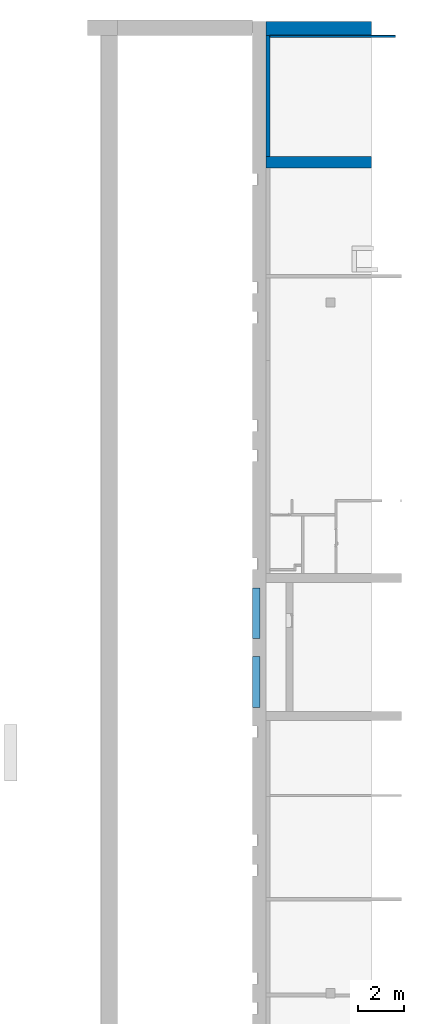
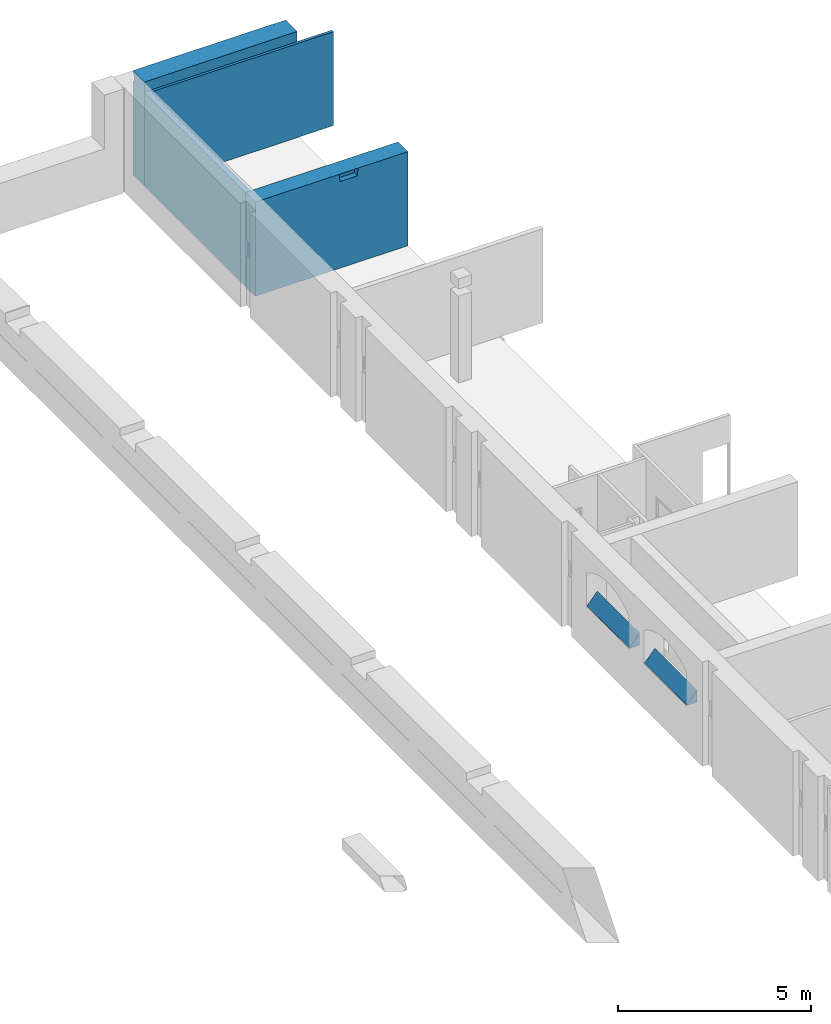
# One storey, part 9 of 11: 5 walls, 15 openings.
"""IFC2X3 building model written with IfcOpenShell, lengths in millimetres."""

from ifc_helpers import new_model, entity, si_unit, converted_unit, derived_unit, direction, frame, frame_2d, origin, origin_2d_with_axis, place, context, subcontext, project, spatial, polyline, circle_curve, parameter, trimmed, segment, composite_curve, rectangle, outline, extrude, clip, bounded_halfspace, faceted_brep, material, layer, layer_set, layer_usage, type_object, element, save


model = new_model("IFC2X3")

# Units and contexts
model_context = context("Model", 3, precision=0.01, world=origin(), true_north=direction((6.123031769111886e-17, 1.0)))
body_context = subcontext(model_context, "Body", "Model", "MODEL_VIEW")
ifc_project = project(units=[si_unit("LENGTHUNIT", "METRE", prefix="MILLI"), si_unit("AREAUNIT", "SQUARE_METRE"), si_unit("VOLUMEUNIT", "CUBIC_METRE"), converted_unit("PLANEANGLEUNIT", "DEGREE", entity("IfcPlaneAngleMeasure", 0.017453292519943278), si_unit("PLANEANGLEUNIT", "RADIAN"), dimensions=[0, 0, 0, 0, 0, 0, 0]), si_unit("MASSUNIT", "GRAM", prefix="KILO"), derived_unit("MASSDENSITYUNIT", [(si_unit("MASSUNIT", "GRAM", prefix="KILO"), 1), (si_unit("LENGTHUNIT", "METRE"), -3)]), derived_unit("IONCONCENTRATIONUNIT", [(si_unit("MASSUNIT", "GRAM", prefix="KILO"), 1), (si_unit("LENGTHUNIT", "METRE"), -3)]), derived_unit("MOMENTOFINERTIAUNIT", [(si_unit("LENGTHUNIT", "METRE"), 4)]), si_unit("TIMEUNIT", "SECOND"), si_unit("FREQUENCYUNIT", "HERTZ"), si_unit("THERMODYNAMICTEMPERATUREUNIT", "DEGREE_CELSIUS"), derived_unit("THERMALTRANSMITTANCEUNIT", [(si_unit("MASSUNIT", "GRAM", prefix="KILO"), 1), (si_unit("THERMODYNAMICTEMPERATUREUNIT", "KELVIN"), -1), (si_unit("TIMEUNIT", "SECOND"), -3)]), derived_unit("THERMALCONDUCTANCEUNIT", [(si_unit("MASSUNIT", "GRAM", prefix="KILO"), 1), (si_unit("THERMODYNAMICTEMPERATUREUNIT", "KELVIN"), -1), (si_unit("TIMEUNIT", "SECOND"), -3), (si_unit("LENGTHUNIT", "METRE"), 1)]), derived_unit("VOLUMETRICFLOWRATEUNIT", [(si_unit("LENGTHUNIT", "METRE", prefix="DECI"), 3), (si_unit("TIMEUNIT", "SECOND"), -1)]), derived_unit("MASSFLOWRATEUNIT", [(si_unit("MASSUNIT", "GRAM", prefix="KILO"), 1), (si_unit("TIMEUNIT", "SECOND"), -1)]), derived_unit("ROTATIONALFREQUENCYUNIT", [(si_unit("TIMEUNIT", "SECOND"), -1)]), si_unit("ELECTRICCURRENTUNIT", "AMPERE"), si_unit("ELECTRICVOLTAGEUNIT", "VOLT"), si_unit("POWERUNIT", "WATT"), si_unit("FORCEUNIT", "NEWTON", prefix="KILO"), si_unit("ILLUMINANCEUNIT", "LUX"), si_unit("LUMINOUSFLUXUNIT", "LUMEN"), si_unit("LUMINOUSINTENSITYUNIT", "CANDELA"), si_unit("ENERGYUNIT", "JOULE"), derived_unit("USERDEFINED", [(si_unit("MASSUNIT", "GRAM", prefix="KILO"), -1), (si_unit("LENGTHUNIT", "METRE"), -2), (si_unit("TIMEUNIT", "SECOND"), 3), (si_unit("LUMINOUSFLUXUNIT", "LUMEN"), 1)]), derived_unit("USERDEFINED", [(si_unit("MASSUNIT", "GRAM", prefix="KILO"), 1), (si_unit("TIMEUNIT", "SECOND"), -3), (si_unit("LENGTHUNIT", "METRE"), 3), (si_unit("ELECTRICCURRENTUNIT", "AMPERE"), -2)]), derived_unit("SOUNDPOWERUNIT", [(si_unit("MASSUNIT", "GRAM", prefix="KILO"), 1), (si_unit("TIMEUNIT", "SECOND"), -3), (si_unit("LENGTHUNIT", "METRE"), 2)]), derived_unit("SOUNDPRESSUREUNIT", [(si_unit("MASSUNIT", "GRAM", prefix="KILO"), 1), (si_unit("LENGTHUNIT", "METRE"), -1), (si_unit("TIMEUNIT", "SECOND"), -2)]), derived_unit("LINEARVELOCITYUNIT", [(si_unit("LENGTHUNIT", "METRE"), 1), (si_unit("TIMEUNIT", "SECOND"), -1)]), si_unit("PRESSUREUNIT", "PASCAL"), derived_unit("USERDEFINED", [(si_unit("MASSUNIT", "GRAM", prefix="KILO"), 1), (si_unit("LENGTHUNIT", "METRE"), -2), (si_unit("TIMEUNIT", "SECOND"), -2)]), derived_unit("LINEARFORCEUNIT", [(si_unit("MASSUNIT", "GRAM", prefix="KILO"), 1), (si_unit("TIMEUNIT", "SECOND"), -2)]), derived_unit("PLANARFORCEUNIT", [(si_unit("MASSUNIT", "GRAM", prefix="KILO"), 1), (si_unit("LENGTHUNIT", "METRE"), -1), (si_unit("TIMEUNIT", "SECOND"), -2)]), derived_unit("SPECIFICHEATCAPACITYUNIT", [(si_unit("THERMODYNAMICTEMPERATUREUNIT", "KELVIN"), -1), (si_unit("LENGTHUNIT", "METRE"), 2), (si_unit("TIMEUNIT", "SECOND"), -2)]), derived_unit("HEATFLUXDENSITYUNIT", [(si_unit("MASSUNIT", "GRAM", prefix="KILO"), 1), (si_unit("TIMEUNIT", "SECOND"), -3)]), derived_unit("HEATINGVALUEUNIT", [(si_unit("LENGTHUNIT", "METRE"), 2), (si_unit("TIMEUNIT", "SECOND"), -2)]), derived_unit("VAPORPERMEABILITYUNIT", [(si_unit("LENGTHUNIT", "METRE"), -1), (si_unit("TIMEUNIT", "SECOND"), 1)]), derived_unit("DYNAMICVISCOSITYUNIT", [(si_unit("MASSUNIT", "GRAM", prefix="KILO"), 1), (si_unit("TIMEUNIT", "SECOND"), -1), (si_unit("LENGTHUNIT", "METRE"), -1)]), derived_unit("THERMALEXPANSIONCOEFFICIENTUNIT", [(si_unit("THERMODYNAMICTEMPERATUREUNIT", "KELVIN"), -1)]), derived_unit("MODULUSOFELASTICITYUNIT", [(si_unit("MASSUNIT", "GRAM", prefix="KILO"), 1), (si_unit("LENGTHUNIT", "METRE"), -1), (si_unit("TIMEUNIT", "SECOND"), -2)]), derived_unit("ISOTHERMALMOISTURECAPACITYUNIT", [(si_unit("MASSUNIT", "GRAM", prefix="KILO"), -1), (si_unit("LENGTHUNIT", "METRE"), 3)]), derived_unit("MOISTUREDIFFUSIVITYUNIT", [(si_unit("TIMEUNIT", "SECOND"), -1), (si_unit("LENGTHUNIT", "METRE"), 2)]), derived_unit("MASSPERLENGTHUNIT", [(si_unit("MASSUNIT", "GRAM", prefix="KILO"), 1), (si_unit("LENGTHUNIT", "METRE"), -1)]), derived_unit("THERMALRESISTANCEUNIT", [(si_unit("MASSUNIT", "GRAM", prefix="KILO"), -1), (si_unit("TIMEUNIT", "SECOND"), 3), (si_unit("THERMODYNAMICTEMPERATUREUNIT", "KELVIN"), 1)]), derived_unit("ACCELERATIONUNIT", [(si_unit("LENGTHUNIT", "METRE"), 1), (si_unit("TIMEUNIT", "SECOND"), -2)]), derived_unit("ANGULARVELOCITYUNIT", [(si_unit("TIMEUNIT", "SECOND"), -1), (si_unit("PLANEANGLEUNIT", "RADIAN"), 1)]), derived_unit("LINEARSTIFFNESSUNIT", [(si_unit("MASSUNIT", "GRAM", prefix="KILO"), 1), (si_unit("TIMEUNIT", "SECOND"), -2)]), derived_unit("WARPINGCONSTANTUNIT", [(si_unit("LENGTHUNIT", "METRE"), 6)]), derived_unit("LINEARMOMENTUNIT", [(si_unit("MASSUNIT", "GRAM", prefix="KILO"), 1), (si_unit("LENGTHUNIT", "METRE"), 1), (si_unit("TIMEUNIT", "SECOND"), -2)]), derived_unit("TORQUEUNIT", [(si_unit("MASSUNIT", "GRAM", prefix="KILO"), 1), (si_unit("LENGTHUNIT", "METRE"), 2), (si_unit("TIMEUNIT", "SECOND"), -2)])], contexts=[model_context])

# Site, building, storey
site_placement = place(None, origin())
site = spatial("IfcSite", under=ifc_project, at=site_placement, Name="Default", CompositionType="ELEMENT")
building_placement = place(site_placement, origin())
building = spatial("IfcBuilding", under=site, at=building_placement, Name="Eesti Rahvusraamatukogu hoone renoveerimise projekteerimistööd", CompositionType="ELEMENT")
storey_placement = place(building_placement, frame((0.0, 0.0, -1650.0)))
storey = spatial("IfcBuildingStorey", under=building, at=storey_placement, Name="-1. korrus", CompositionType="ELEMENT", Elevation=-1650.0000000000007)

# Walls
ifc_material_1 = material(Name="ol. olev materjal")
ifc_layer_1 = layer(ifc_material_1, 600.0)
ifc_layer_set_1 = layer_set([ifc_layer_1], Name="Basic Wall:ol. olev - 600mm")
wall_type_1 = type_object("IfcWallType", Name="Basic Wall:ol. olev - 600mm", PredefinedType="STANDARD", material=ifc_layer_set_1)
wall_1_placement = place(storey_placement, frame((-36190.17342295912, 54290.37627987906, 0.0)))
element("IfcWall", 1, at=wall_1_placement, inside=storey, type_object=wall_type_1, Name="Basic Wall:ol. olev - 600mm", ObjectType="Basic Wall:ol. olev - 600mm", context=body_context, shape_type="Brep", body=[
    faceted_brep([(4580.3549917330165, -300.0, 3300.0), (0.0, -300.0, 3300.0), (0.0, -300.0, 0.0), (4580.3549917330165, -300.0, 0.0), (4580.354991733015, 300.0, 0.0), (3570.173422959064, 300.0, 0.0), (3290.17342295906, 300.0, 0.0), (2400.1734229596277, 300.0, 0.0), (1760.1734229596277, 300.0, 0.0), (0.0, 300.0, 0.0), (0.0, 300.0, 2966.7097966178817), (3290.1734229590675, 300.0, 2966.7097966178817), (3290.1734229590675, 300.0, 2980.0), (3290.1734229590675, 300.0, 3202.9859096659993), (0.0, 300.0, 3202.9859096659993), (0.0, 300.0, 3300.0), (4580.354991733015, 300.0, 3300.0), (0.0, 299.6237201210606, 0.0), (0.0, 299.6237201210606, 3300.0), (3290.173422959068, 250.0, 2966.7097966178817), (3290.173422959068, 250.0, 3202.9859096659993), (0.0, 250.0, 2966.7097966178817), (0.0, 250.0, 3202.9859096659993)], [[[0, 1, 2, 3]], [[4, 5, 6, 7, 8, 9, 10, 11, 12, 13, 14, 15, 16]], [[9, 8, 7, 6, 5, 4, 3, 2, 17]], [[1, 0, 16, 15, 18]], [[19, 20, 13, 12, 11]], [[20, 19, 21, 22]], [[19, 11, 10, 21]], [[13, 20, 22, 14]], [[2, 1, 18, 15, 14, 22, 21, 10, 9, 17]], [[0, 3, 4, 16]]]),
])
ifc_layer_2 = layer(ifc_material_1, 510.0)
ifc_layer_set_2 = layer_set([ifc_layer_2], Name="Basic Wall:ol. olev - 510mm")
wall_type_2 = type_object("IfcWallType", Name="Basic Wall:ol. olev - 510mm", PredefinedType="STANDARD", material=ifc_layer_set_2)
wall_2_placement = place(storey_placement, frame((-30570.0, 48485.0, 0.0), z_axis=(0.0, 0.0, 1.0), x_axis=(-1.0, 0.0, 0.0)))
element("IfcWall", 2, at=wall_2_placement, inside=storey, type_object=wall_type_2, Name="Basic Wall:ol. olev - 510mm", ObjectType="Basic Wall:ol. olev - 510mm", context=body_context, shape_type="Brep", body=[
    faceted_brep([(1039.8184312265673, -255.0, 0.0), (5620.17342295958, -255.0, 0.0), (5620.17342295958, -255.0, 2985.0), (1039.8184312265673, -255.0, 2985.0), (5620.173422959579, 255.0, 0.0), (1039.8184312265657, 255.0, 0.0), (1039.8184312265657, 255.0, 2985.0), (5620.173422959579, 255.0, 2985.0), (2560.0, 255.0, 2750.0), (3080.0, 255.0, 2750.0), (3100.0, 255.0, 2980.0), (2540.0, 255.0, 2980.0), (2540.0, 95.0, 2980.0), (3100.0, 95.0, 2980.0), (3080.0, 95.0, 2750.0), (2560.0, 95.0, 2750.0)], [[[0, 1, 2, 3]], [[4, 5, 6, 7], [8, 9, 10, 11]], [[1, 0, 5, 4]], [[3, 2, 7, 6]], [[12, 13, 14, 15]], [[15, 14, 9, 8]], [[14, 13, 10, 9]], [[13, 12, 11, 10]], [[12, 15, 8, 11]], [[2, 1, 4, 7]], [[0, 3, 6, 5]]]),
])
ifc_material_2 = material(Name="Default Wall")
wall_type_3 = type_object("IfcWallType", Name="Vents kalle:ol. olev vent kalle", PredefinedType="NOTDEFINED", material=ifc_material_2)
wall_3_placement = place(storey_placement, frame((-36772.57564772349, 24810.0, 1420.0), z_axis=(0.0, 0.0, 1.0), x_axis=(0.0, 1.0, 0.0)))
element("IfcWall", 3, at=wall_3_placement, inside=storey, type_object=wall_type_3, material=ifc_material_2, Name="Vents kalle:ol. olev vent kalle", ObjectType="Vents kalle:ol. olev vent kalle", context=body_context, shape_type="Brep", body=[
    faceted_brep([(2988.634341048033, -312.5756477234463, 0.0), (2988.634341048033, -312.5756477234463, 385.0), (2988.634341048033, 0.0, 21.781660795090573), (2988.634341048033, -12.575647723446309, 0.0), (5188.634341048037, -312.5756477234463, 0.0), (5188.634341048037, -12.575647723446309, 0.0), (5188.634341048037, 0.0, 21.781660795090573), (5188.634341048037, -312.5756477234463, 385.0)], [[[0, 1, 2, 3]], [[4, 5, 6, 7]], [[1, 0, 4, 7]], [[2, 1, 7, 6]], [[3, 2, 6, 5]], [[0, 3, 5, 4]]]),
    faceted_brep([(0.0, -312.5756477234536, 0.0), (0.0, -312.5756477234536, 385.0), (0.0, 0.0, 21.781660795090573), (0.0, -12.575647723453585, 0.0), (2200.0, -312.5756477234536, 0.0), (2200.0, -12.575647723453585, 0.0), (2200.0, 0.0, 21.781660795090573), (2200.0, -312.5756477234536, 385.0)], [[[0, 1, 2, 3]], [[4, 5, 6, 7]], [[1, 0, 4, 7]], [[2, 1, 7, 6]], [[3, 2, 6, 5]], [[0, 3, 5, 4]]]),
])

# Wall, openings
ifc_material_3 = material(Name="EST. Ehitusplaat. Kipsplaat")
ifc_layer_3 = layer(ifc_material_3, 14.0)
ifc_material_4 = material(Name="EST. Ehitusplaat. OSB")
ifc_layer_4 = layer(ifc_material_4, 15.0)
ifc_material_5 = material(Name="EST. Õhkvahe. Roov. Kipsplaadi alusroov. Vertikaalne")
ifc_layer_5 = layer(ifc_material_5, 66.0)
ifc_material_6 = material(Name="EST. Soojustus.PIR. Default")
ifc_layer_6 = layer(ifc_material_6, 70.0)
ifc_layer_set_3 = layer_set([ifc_layer_3, ifc_layer_4, ifc_layer_5, ifc_layer_6], Name="Basic Wall:VS-01 - 165 sooj. mitte läbiv")
ifc_layer_usage_1 = layer_usage(ifc_layer_set_3, "AXIS2", "NEGATIVE", 82.49999999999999)
wall_type_4 = type_object("IfcWallType", Name="Basic Wall:VS-01 - 165 sooj. mitte läbiv", PredefinedType="STANDARD", material=ifc_layer_set_3)
wall_4_placement = place(storey_placement, frame((-36107.67342295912, 53990.37627987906, 0.0), z_axis=(0.0, 0.0, 1.0), x_axis=(0.0, -1.0, 0.0)))
wall_4 = element("IfcWallStandardCase", 4, at=wall_4_placement, inside=storey, type_object=wall_type_4, material=ifc_layer_usage_1, Name="Basic Wall:VS-01 - 165 sooj. mitte läbiv", ObjectType="Basic Wall:VS-01 - 165 sooj. mitte läbiv", context=body_context, shape_type="SweptSolid", body=[
    extrude(rectangle(XDim=5250.3762798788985, YDim=165.00000000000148, at=frame_2d((2625.1881399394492, -1.3713474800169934e-12), x_axis=(-1.0, 0.0))), origin(), (0.0, 0.0, 1.0), 2980.0000000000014),
])
opening_1_placement = place(wall_4_placement, frame((29181.97155211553, -234.90000000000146, 1420.0)))
element("IfcOpeningElement", 5, at=opening_1_placement, cuts=wall_4, Name="Basic Wall:VS-01 - 165 sooj. mitte läbiv", ObjectType="Opening", context=body_context, shape_type="SweptSolid", body=[
    extrude(outline(composite_curve([segment(polyline([(-530.3896667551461, -1100.0), (529.6103332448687, -1100.0)]), True, "CONTINUOUS"), segment(trimmed(circle_curve(frame_2d((-913.267637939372, 1.0228095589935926), x_axis=(0.0, -1.0)), 1814.9788061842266), [parameter(52.653685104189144)], [parameter(127.26512850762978)], True, "PARAMETER"), True, "CONTINUOUS"), segment(polyline([(531.1690002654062, 1100.0), (-530.3896667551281, 1100.0)]), True, "CONTINUOUS"), segment(polyline([(-530.3896667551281, 1100.0), (-530.3896667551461, -1100.0)]), True, "CONTINUOUS")], self_intersect=False)), frame((-1101.5952722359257, 0.0, 530.3896667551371), z_axis=(0.0, 1.0, 0.0), x_axis=(0.0, 0.0, 1.0)), (0.0, 0.0, 1.0), 469.8000000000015),
])
opening_2_placement = place(wall_4_placement, frame((26193.337211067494, -234.90000000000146, 1420.0)))
element("IfcOpeningElement", 6, at=opening_2_placement, cuts=wall_4, Name="Basic Wall:VS-01 - 165 sooj. mitte läbiv", ObjectType="Opening", context=body_context, shape_type="SweptSolid", body=[
    extrude(outline(composite_curve([segment(polyline([(-530.3896667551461, -1100.0), (529.6103332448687, -1100.0)]), True, "CONTINUOUS"), segment(trimmed(circle_curve(frame_2d((-913.267637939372, 1.0228095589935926), x_axis=(0.0, -1.0)), 1814.9788061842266), [parameter(52.653685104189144)], [parameter(127.26512850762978)], True, "PARAMETER"), True, "CONTINUOUS"), segment(polyline([(531.1690002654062, 1100.0), (-530.3896667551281, 1100.0)]), True, "CONTINUOUS"), segment(polyline([(-530.3896667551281, 1100.0), (-530.3896667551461, -1100.0)]), True, "CONTINUOUS")], self_intersect=False)), frame((-1101.5952722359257, 0.0, 530.3896667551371), z_axis=(0.0, 1.0, 0.0), x_axis=(0.0, 0.0, 1.0)), (0.0, 0.0, 1.0), 469.8000000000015),
])
opening_3_placement = place(wall_4_placement, frame((53990.37627987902, 36107.673422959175, 1565.0)))
element("IfcOpeningElement", 7, at=opening_3_placement, cuts=wall_4, Name="Basic Wall:VS-01 - 165 sooj. mitte läbiv", ObjectType="Opening", context=body_context, shape_type="SweptSolid", body=[
    extrude(rectangle(XDim=499.9999999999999, YDim=499.999999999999, at=frame_2d((-4.334310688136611e-12, 0.0), x_axis=(0.0, 1.0))), frame((-47740.0, -37714.17342295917, 250.0), z_axis=(0.0, 1.0, 0.0), x_axis=(-1.0, 0.0, 0.0)), (0.0, 0.0, 1.0), 3048.0),
])
opening_4_placement = place(wall_4_placement, frame((53990.37627987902, 36107.673422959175, 1565.0)))
element("IfcOpeningElement", 8, at=opening_4_placement, cuts=wall_4, Name="Basic Wall:VS-01 - 165 sooj. mitte läbiv", ObjectType="Opening", context=body_context, shape_type="SweptSolid", body=[
    extrude(rectangle(XDim=499.9999999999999, YDim=499.999999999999, at=frame_2d((0.0, -4.334310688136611e-12), x_axis=(1.0, 0.0))), frame((-43040.0, -37714.17342295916, 250.0), z_axis=(0.0, 1.0, 0.0), x_axis=(0.0, 0.0, 1.0)), (0.0, 0.0, 1.0), 3048.0),
])
opening_5_placement = place(wall_4_placement, frame((53990.37627987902, 36107.673422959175, 1565.0)))
element("IfcOpeningElement", 9, at=opening_5_placement, cuts=wall_4, Name="Basic Wall:VS-01 - 165 sooj. mitte läbiv", ObjectType="Opening", context=body_context, shape_type="SweptSolid", body=[
    extrude(rectangle(XDim=499.9999999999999, YDim=499.999999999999, at=frame_2d((-4.334310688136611e-12, 0.0), x_axis=(0.0, 1.0))), frame((-41740.0, -37714.17342295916, 250.0), z_axis=(0.0, 1.0, 0.0), x_axis=(-1.0, 0.0, 0.0)), (0.0, 0.0, 1.0), 3048.0),
])
opening_6_placement = place(wall_4_placement, frame((53990.37627987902, 36107.673422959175, 1565.0)))
element("IfcOpeningElement", 10, at=opening_6_placement, cuts=wall_4, Name="Basic Wall:VS-01 - 165 sooj. mitte läbiv", ObjectType="Opening", context=body_context, shape_type="SweptSolid", body=[
    extrude(rectangle(XDim=499.9999999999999, YDim=499.999999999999, at=origin_2d_with_axis()), frame((-37040.0, -37714.17342295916, 250.0), z_axis=(0.0, 1.0, 0.0), x_axis=(0.0, 0.0, 1.0)), (0.0, 0.0, 1.0), 3048.0),
])
opening_7_placement = place(wall_4_placement, frame((53990.37627987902, 36107.673422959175, 1565.0)))
element("IfcOpeningElement", 11, at=opening_7_placement, cuts=wall_4, Name="Basic Wall:VS-01 - 165 sooj. mitte läbiv", ObjectType="Opening", context=body_context, shape_type="SweptSolid", body=[
    extrude(rectangle(XDim=499.9999999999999, YDim=499.999999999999, at=frame_2d((0.0, 0.0), x_axis=(0.0, 1.0))), frame((-35740.0, -37714.17342295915, 250.0), z_axis=(0.0, 1.0, 0.0), x_axis=(-1.0, 0.0, 0.0)), (0.0, 0.0, 1.0), 3048.0),
])
opening_8_placement = place(wall_4_placement, frame((53990.37627987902, 36107.673422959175, 1565.0)))
element("IfcOpeningElement", 12, at=opening_8_placement, cuts=wall_4, Name="Basic Wall:VS-01 - 165 sooj. mitte läbiv", ObjectType="Opening", context=body_context, shape_type="SweptSolid", body=[
    extrude(rectangle(XDim=499.9999999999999, YDim=499.999999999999, at=origin_2d_with_axis()), frame((-31040.0, -37714.17342295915, 250.0), z_axis=(0.0, 1.0, 0.0), x_axis=(0.0, 0.0, 1.0)), (0.0, 0.0, 1.0), 3048.0),
])
opening_9_placement = place(wall_4_placement, frame((53990.37627987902, 36107.673422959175, 1565.0)))
element("IfcOpeningElement", 13, at=opening_9_placement, cuts=wall_4, Name="Basic Wall:VS-01 - 165 sooj. mitte läbiv", ObjectType="Opening", context=body_context, shape_type="SweptSolid", body=[
    extrude(rectangle(XDim=499.9999999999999, YDim=499.999999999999, at=origin_2d_with_axis()), frame((-19040.0, -37714.17342295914, 250.0), z_axis=(0.0, 1.0, 0.0), x_axis=(0.0, 0.0, 1.0)), (0.0, 0.0, 1.0), 3048.0),
])
opening_10_placement = place(wall_4_placement, frame((53990.37627987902, 36107.673422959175, 1565.0)))
element("IfcOpeningElement", 14, at=opening_10_placement, cuts=wall_4, Name="Basic Wall:VS-01 - 165 sooj. mitte läbiv", ObjectType="Opening", context=body_context, shape_type="SweptSolid", body=[
    extrude(rectangle(XDim=499.9999999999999, YDim=500.00000000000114, at=frame_2d((-1.0800249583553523e-12, 0.0), x_axis=(0.0, 1.0))), frame((-17740.0, -37714.17342295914, 250.0), z_axis=(0.0, 1.0, 0.0), x_axis=(-1.0, 0.0, 0.0)), (0.0, 0.0, 1.0), 3048.0),
])
opening_11_placement = place(wall_4_placement, frame((53990.37627987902, 36107.673422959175, 1565.0)))
element("IfcOpeningElement", 15, at=opening_11_placement, cuts=wall_4, Name="Basic Wall:VS-01 - 165 sooj. mitte läbiv", ObjectType="Opening", context=body_context, shape_type="SweptSolid", body=[
    extrude(rectangle(XDim=499.9999999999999, YDim=499.999999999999, at=origin_2d_with_axis()), frame((-13040.0, -37714.17342295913, 250.0), z_axis=(0.0, 1.0, 0.0), x_axis=(0.0, 0.0, 1.0)), (0.0, 0.0, 1.0), 3048.0),
])
opening_12_placement = place(wall_4_placement, frame((53990.37627987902, 36107.673422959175, 1565.0)))
element("IfcOpeningElement", 16, at=opening_12_placement, cuts=wall_4, Name="Basic Wall:VS-01 - 165 sooj. mitte läbiv", ObjectType="Opening", context=body_context, shape_type="SweptSolid", body=[
    extrude(rectangle(XDim=499.9999999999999, YDim=500.00000000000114, at=frame_2d((1.0800249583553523e-12, 0.0), x_axis=(0.0, 1.0))), frame((-11740.0, -37714.17342295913, 250.0), z_axis=(0.0, 1.0, 0.0), x_axis=(-1.0, 0.0, 0.0)), (0.0, 0.0, 1.0), 3048.0),
])
opening_13_placement = place(wall_4_placement, frame((53990.37627987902, 36107.673422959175, 1565.0)))
element("IfcOpeningElement", 17, at=opening_13_placement, cuts=wall_4, Name="Basic Wall:VS-01 - 165 sooj. mitte läbiv", ObjectType="Opening", context=body_context, shape_type="SweptSolid", body=[
    extrude(rectangle(XDim=499.9999999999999, YDim=500.00000000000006, at=frame_2d((0.0, 5.400124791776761e-13), x_axis=(1.0, 0.0))), frame((-7040.0, -37714.173422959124, 250.0), z_axis=(0.0, 1.0, 0.0), x_axis=(0.0, 0.0, 1.0)), (0.0, 0.0, 1.0), 3048.0),
])
opening_14_placement = place(wall_4_placement, frame((53990.37627987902, 36107.673422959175, 1565.0)))
element("IfcOpeningElement", 18, at=opening_14_placement, cuts=wall_4, Name="Basic Wall:VS-01 - 165 sooj. mitte läbiv", ObjectType="Opening", context=body_context, shape_type="SweptSolid", body=[
    extrude(rectangle(XDim=499.9999999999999, YDim=499.999999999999, at=frame_2d((1.4210854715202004e-14, 0.0), x_axis=(1.0, 0.0))), frame((-23740.0, -37714.17342295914, 250.0), z_axis=(0.0, 1.0, 0.0), x_axis=(0.0, 0.0, 1.0)), (0.0, 0.0, 1.0), 3048.0),
])
opening_15_placement = place(wall_4_placement, frame((53990.37627987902, 36107.673422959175, 1650.0)))
element("IfcOpeningElement", 19, at=opening_15_placement, cuts=wall_4, Name="Basic Wall:VS-01 - 165 sooj. mitte läbiv", ObjectType="Opening", context=body_context, shape_type="SweptSolid", body=[
    extrude(rectangle(XDim=3600.000000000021, YDim=499.999999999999, at=origin_2d_with_axis()), frame((-7040.0, -36790.0, 150.0), z_axis=(0.0, 1.0, 0.0), x_axis=(0.0, 0.0, -1.0)), (0.0, 0.0, 1.0), 199.99999999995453),
    extrude(rectangle(XDim=3600.000000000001, YDim=499.999999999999, at=frame_2d((0.0, -4.334310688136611e-12), x_axis=(1.0, 0.0))), frame((-47740.0, -36790.0, 150.0), z_axis=(0.0, 1.0, 0.0), x_axis=(0.0, 0.0, -1.0)), (0.0, 0.0, 1.0), 199.99999999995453),
    extrude(rectangle(XDim=3599.9999999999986, YDim=499.999999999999, at=frame_2d((0.0, -4.334310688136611e-12), x_axis=(1.0, 0.0))), frame((-43040.0, -36790.0, 150.0), z_axis=(0.0, 1.0, 0.0), x_axis=(0.0, 0.0, -1.0)), (0.0, 0.0, 1.0), 199.99999999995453),
    extrude(rectangle(XDim=3600.0000000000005, YDim=499.999999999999, at=frame_2d((2.2737367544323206e-13, -4.334310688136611e-12), x_axis=(1.0, 0.0))), frame((-41740.0, -36790.0, 150.0), z_axis=(0.0, 1.0, 0.0), x_axis=(0.0, 0.0, -1.0)), (0.0, 0.0, 1.0), 199.99999999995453),
    extrude(rectangle(XDim=3599.999999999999, YDim=499.999999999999, at=origin_2d_with_axis()), frame((-37040.0, -36790.0, 150.0), z_axis=(0.0, 1.0, 0.0), x_axis=(0.0, 0.0, -1.0)), (0.0, 0.0, 1.0), 199.99999999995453),
    extrude(rectangle(XDim=3599.999999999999, YDim=499.999999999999, at=origin_2d_with_axis()), frame((-35740.0, -36790.0, 150.0), z_axis=(0.0, 1.0, 0.0), x_axis=(0.0, 0.0, -1.0)), (0.0, 0.0, 1.0), 199.99999999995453),
    extrude(rectangle(XDim=3599.9999999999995, YDim=499.999999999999, at=frame_2d((-2.2737367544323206e-13, 0.0), x_axis=(1.0, 0.0))), frame((-31040.0, -36790.0, 150.0), z_axis=(0.0, 1.0, 0.0), x_axis=(0.0, 0.0, -1.0)), (0.0, 0.0, 1.0), 199.99999999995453),
    extrude(rectangle(XDim=3600.000000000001, YDim=499.999999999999, at=origin_2d_with_axis()), frame((-23740.0, -36790.0, 150.0), z_axis=(0.0, 1.0, 0.0), x_axis=(0.0, 0.0, -1.0)), (0.0, 0.0, 1.0), 199.99999999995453),
    extrude(rectangle(XDim=3600.0000000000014, YDim=500.0000000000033, at=frame_2d((-2.2737367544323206e-13, 2.1600499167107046e-12), x_axis=(1.0, 0.0))), frame((-19040.0, -36790.0, 150.0), z_axis=(0.0, 1.0, 0.0), x_axis=(0.0, 0.0, -1.0)), (0.0, 0.0, 1.0), 199.99999999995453),
    extrude(rectangle(XDim=3600.000000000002, YDim=499.999999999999, at=origin_2d_with_axis()), frame((-17740.0, -36790.0, 150.0), z_axis=(0.0, 1.0, 0.0), x_axis=(0.0, 0.0, -1.0)), (0.0, 0.0, 1.0), 199.99999999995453),
    extrude(rectangle(XDim=3600.0000000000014, YDim=500.0000000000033, at=origin_2d_with_axis()), frame((-13040.0, -36790.0, 150.0), z_axis=(0.0, 1.0, 0.0), x_axis=(0.0, 0.0, -1.0)), (0.0, 0.0, 1.0), 199.99999999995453),
    extrude(rectangle(XDim=3600.0000000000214, YDim=499.999999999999, at=origin_2d_with_axis()), frame((-11740.0, -36790.0, 150.0), z_axis=(0.0, 1.0, 0.0), x_axis=(0.0, 0.0, -1.0)), (0.0, 0.0, 1.0), 199.99999999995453),
])

# Wall
ifc_material_7 = material(Name="EST. Soojustus.PIR_Powerwall Pro")
ifc_layer_7 = layer(ifc_material_7, 30.0)
ifc_material_8 = material(Name="EST. Metall. Alumiinium. Mütsprofiil.")
ifc_layer_8 = layer(ifc_material_8, 42.0)
ifc_layer_9 = layer(ifc_material_3, 12.5)
ifc_layer_set_4 = layer_set([ifc_layer_7, ifc_layer_8, ifc_layer_9], Name="Basic Wall:VS-03.1 - soojustus")
ifc_layer_usage_2 = layer_usage(ifc_layer_set_4, "AXIS2", "POSITIVE", -42.25000000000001)
wall_type_5 = type_object("IfcWallType", Name="Basic Wall:VS-03.1 - soojustus", PredefinedType="STANDARD", material=ifc_layer_set_4)
wall_5_placement = place(storey_placement, frame((-30570.0, 53948.12627987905, 0.0), z_axis=(0.0, 0.0, 1.0), x_axis=(-1.0, 0.0, 0.0)))
element("IfcWallStandardCase", 20, at=wall_5_placement, inside=storey, type_object=wall_type_5, material=ifc_layer_usage_2, Name="Basic Wall:VS-03.1 - soojustus", ObjectType="Basic Wall:VS-03.1 - soojustus", context=body_context, shape_type="Clipping", body=[
    clip(extrude(rectangle(XDim=5455.173422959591, YDim=84.50000000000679, at=frame_2d((2727.5867114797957, 5.009326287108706e-13), x_axis=(-1.0, 0.0))), origin(), (0.0, 0.0, 1.0), 2980.0000000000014), bounded_halfspace(frame((0.0, -42.24999999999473, 2980.0), z_axis=(0.0, 0.0, 1.0), x_axis=(0.0, 1.0, 0.0)), False, frame((0.0, -42.24999999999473, 2980.0)), polyline([(0.0, 0.0), (230.0, 0.0), (230.0, 84.49999999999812), (0.0, 84.49999999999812), (0.0, 0.0)]))),
])

save(model, "model.ifc")
